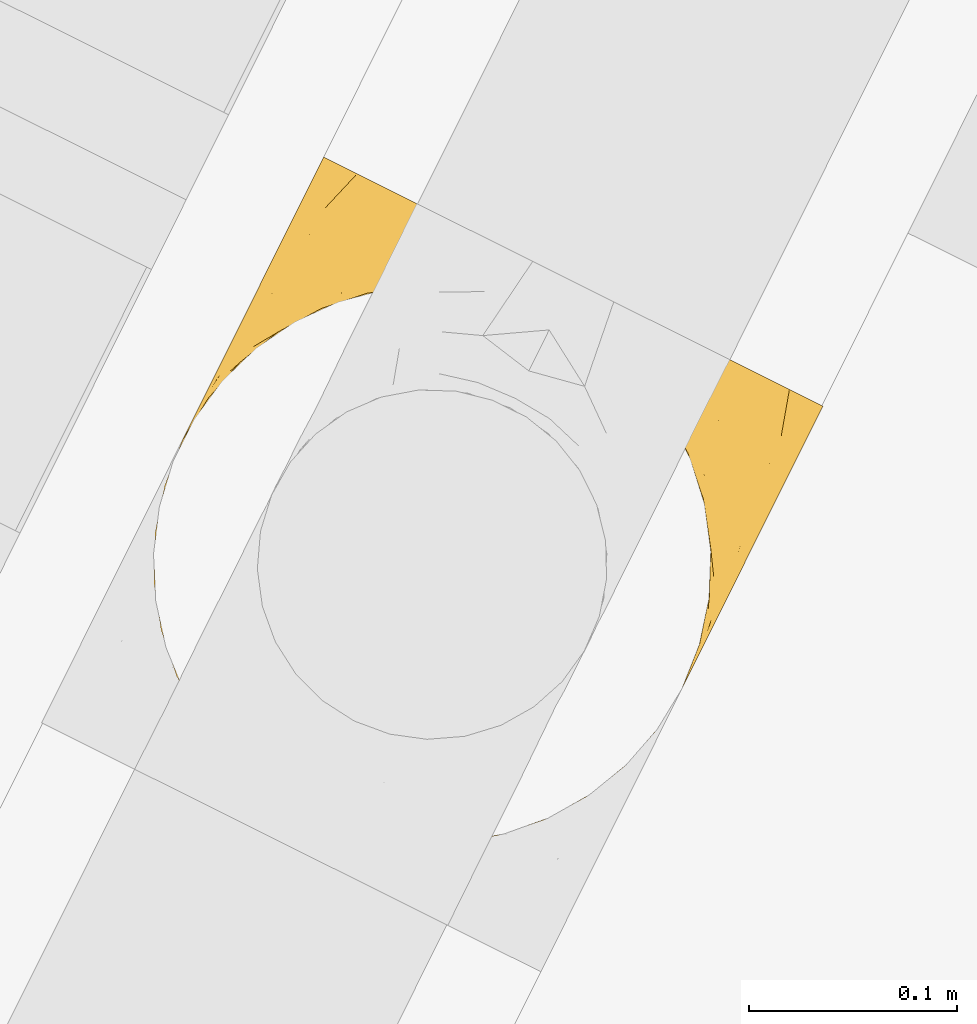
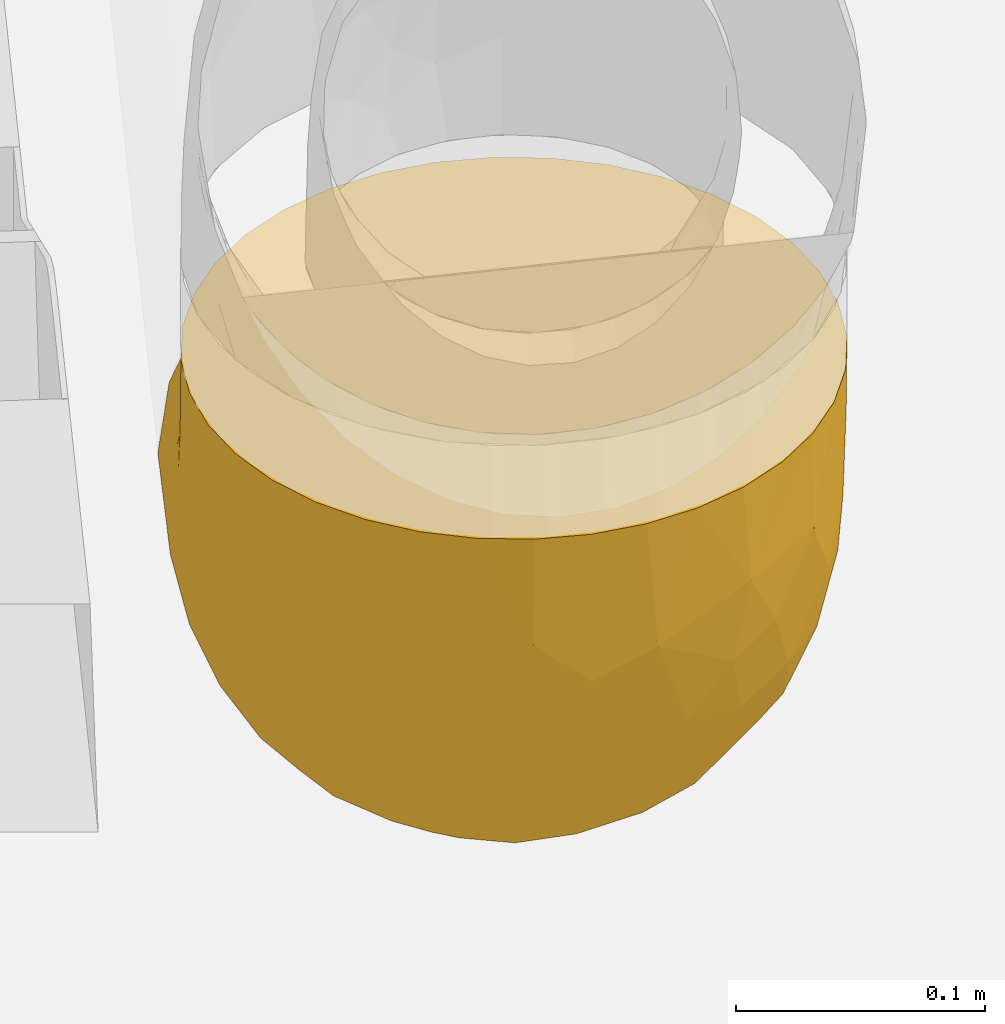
# One storey, part 49 of 91: 1 covering.
"""IFC2X3 building model written with IfcOpenShell, lengths in metres."""

from ifc_helpers import new_model, entity, si_unit, converted_unit, derived_unit, direction, frame, origin, place, context, subcontext, project, spatial, faceted_brep, element, save


model = new_model("IFC2X3")

# Units and contexts
model_context = context("Model", 3, precision=1e-05, world=origin(), true_north=direction((0.894925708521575, 0.446215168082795)))
context_of_model = context(None, 3, precision=1e-05, world=origin(), true_north=direction((0.894925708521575, 0.446215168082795)))
body_context = subcontext(model_context, "Body", "Model", "MODEL_VIEW")
ifc_project = project(units=[si_unit("LENGTHUNIT", "METRE"), si_unit("AREAUNIT", "SQUARE_METRE"), si_unit("VOLUMEUNIT", "CUBIC_METRE"), converted_unit("PLANEANGLEUNIT", "DEGREE", entity("IfcRatioMeasure", 0.0174532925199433), si_unit("PLANEANGLEUNIT", "RADIAN"), dimensions=[0, 0, 0, 0, 0, 0, 0]), si_unit("MASSUNIT", "GRAM", prefix="KILO"), si_unit("TIMEUNIT", "SECOND"), si_unit("FREQUENCYUNIT", "HERTZ"), si_unit("THERMODYNAMICTEMPERATUREUNIT", "DEGREE_CELSIUS"), derived_unit("THERMALTRANSMITTANCEUNIT", [(si_unit("MASSUNIT", "GRAM", prefix="KILO"), 1), (si_unit("THERMODYNAMICTEMPERATUREUNIT", "KELVIN"), -1), (si_unit("TIMEUNIT", "SECOND"), -3)]), derived_unit("VOLUMETRICFLOWRATEUNIT", [(si_unit("LENGTHUNIT", "METRE"), 3), (si_unit("TIMEUNIT", "SECOND"), -1)]), si_unit("ELECTRICCURRENTUNIT", "AMPERE"), si_unit("ELECTRICVOLTAGEUNIT", "VOLT"), si_unit("POWERUNIT", "WATT"), si_unit("FORCEUNIT", "NEWTON", prefix="KILO"), si_unit("ILLUMINANCEUNIT", "LUX"), si_unit("LUMINOUSFLUXUNIT", "LUMEN"), si_unit("LUMINOUSINTENSITYUNIT", "CANDELA"), si_unit("PRESSUREUNIT", "PASCAL")], contexts=[model_context, context_of_model])

# Site, building, storey
site_placement = place(None, frame((218.228324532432, 584.720189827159, 0.0), z_axis=(0.0, 0.0, 1.0), x_axis=(0.446215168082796, 0.894925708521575, 0.0)))
site = spatial("IfcSite", under=ifc_project, at=site_placement, Name="Default", CompositionType="ELEMENT")
building_placement = place(site_placement, origin())
building = spatial("IfcBuilding", under=site, at=building_placement, CompositionType="ELEMENT")
storey_placement = place(building_placement, origin())
storey = spatial("IfcBuildingStorey", under=building, at=storey_placement, Name="0 - Piano Terra", CompositionType="ELEMENT", Elevation=0.0)

# Covering
covering_placement = place(storey_placement, frame((-13.5648192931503, -4.52096176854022, 3.41425472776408)))
element("IfcCovering", 1, at=covering_placement, inside=storey, Name="Isolamento tubazione:Default", ObjectType="Isolamento tubazione:Default", PredefinedType="INSULATION", context=body_context, shape_type="Brep", body=[
    faceted_brep([(0.0898657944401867, 0.261805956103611, 0.287745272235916), (0.0686705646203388, 0.251922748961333, 0.287745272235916), (0.0495131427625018, 0.238508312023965, 0.287745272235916), (0.0329768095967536, 0.221970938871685, 0.287745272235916), (0.0195645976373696, 0.202814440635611, 0.287745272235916), (0.00968379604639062, 0.181622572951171, 0.287745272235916), (0.00363311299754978, 0.159039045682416, 0.287745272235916), (0.0015952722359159, 0.135745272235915, 0.287745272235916), (0.00363279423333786, 0.112453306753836, 0.287745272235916), (0.00968458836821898, 0.0898657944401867, 0.287745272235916), (0.0195677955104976, 0.0686705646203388, 0.287745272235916), (0.0329822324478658, 0.0495131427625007, 0.287745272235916), (0.0495196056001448, 0.0329768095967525, 0.287745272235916), (0.0686761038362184, 0.0195645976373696, 0.287745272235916), (0.0898679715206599, 0.00968379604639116, 0.287745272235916), (0.112451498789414, 0.00363311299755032, 0.287745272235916), (0.135745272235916, 0.00159527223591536, 0.287745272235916), (0.150442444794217, 0.00288094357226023, 0.287745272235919), (0.159037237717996, 0.00363279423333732, 0.287745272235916), (0.181624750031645, 0.00968458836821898, 0.287745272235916), (0.202819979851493, 0.0195677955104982, 0.287745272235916), (0.221977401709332, 0.0329822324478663, 0.287745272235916), (0.23851373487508, 0.0495196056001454, 0.287745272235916), (0.251925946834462, 0.0686761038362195, 0.287745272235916), (0.261806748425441, 0.0898679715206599, 0.287745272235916), (0.267857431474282, 0.112451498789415, 0.287745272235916), (0.269895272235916, 0.135745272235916, 0.287745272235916), (0.267857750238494, 0.159037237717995, 0.287745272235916), (0.261805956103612, 0.181624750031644, 0.287745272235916), (0.251922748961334, 0.202819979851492, 0.287745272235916), (0.238508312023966, 0.22197740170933, 0.287745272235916), (0.221970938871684, 0.238513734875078, 0.287745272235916), (0.202814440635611, 0.251925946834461, 0.287745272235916), (0.181622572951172, 0.26180674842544, 0.287745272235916), (0.159039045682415, 0.26785743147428, 0.287745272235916), (0.150442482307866, 0.26860949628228, 0.287745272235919), (0.135745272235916, 0.269895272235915, 0.287745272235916), (0.112453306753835, 0.267857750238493, 0.287745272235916), (0.287745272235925, 0.135745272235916, 0.269895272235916), (0.287745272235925, 0.101024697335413, 0.265324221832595), (0.287745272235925, 0.0686702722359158, 0.251922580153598), (0.287745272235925, 0.0408868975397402, 0.230603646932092), (0.287745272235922, 0.0302274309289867, 0.216711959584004), (0.287745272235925, 0.0195679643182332, 0.202820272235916), (0.287745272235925, 0.0128671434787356, 0.186643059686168), (0.287745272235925, 0.00616632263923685, 0.17046584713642), (0.287745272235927, 0.00355977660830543, 0.150667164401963), (0.287745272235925, 0.00159527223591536, 0.135745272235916), (0.287745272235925, 0.00616632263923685, 0.101024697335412), (0.287745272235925, 0.0195679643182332, 0.0686702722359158), (0.287745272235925, 0.0408868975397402, 0.0408868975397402), (0.287745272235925, 0.0686702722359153, 0.0195679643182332), (0.287745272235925, 0.101024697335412, 0.00616632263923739), (0.287745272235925, 0.135745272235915, 0.0015952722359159), (0.287745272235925, 0.170465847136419, 0.00616632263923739), (0.287745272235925, 0.202820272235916, 0.0195679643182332), (0.287745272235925, 0.230603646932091, 0.0408868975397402), (0.287745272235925, 0.251922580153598, 0.0686702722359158), (0.287745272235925, 0.265324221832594, 0.101024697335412), (0.287745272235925, 0.269895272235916, 0.135745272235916), (0.287745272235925, 0.267930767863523, 0.150667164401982), (0.287745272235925, 0.265324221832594, 0.170465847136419), (0.287745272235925, 0.258623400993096, 0.186643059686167), (0.287745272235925, 0.251922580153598, 0.202820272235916), (0.287745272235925, 0.241263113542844, 0.216711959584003), (0.287745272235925, 0.230603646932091, 0.230603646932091), (0.287745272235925, 0.202820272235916, 0.251922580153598), (0.287745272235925, 0.170465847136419, 0.265324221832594), (0.210001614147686, 0.173592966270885, 0.018025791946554), (0.231920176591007, 0.135745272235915, 0.0070935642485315), (0.178240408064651, 0.135745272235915, 0.0233771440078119), (0.00709356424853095, 0.135745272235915, 0.231920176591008), (0.0154037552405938, 0.159717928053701, 0.207241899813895), (0.0233771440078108, 0.135745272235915, 0.178240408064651), (0.0376709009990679, 0.170985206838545, 0.158630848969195), (0.0481840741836, 0.200241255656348, 0.164011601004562), (0.0702767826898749, 0.173639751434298, 0.110284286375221), (0.151109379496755, 0.167491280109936, 0.0406698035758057), (0.165181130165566, 0.199265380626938, 0.0469889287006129), (0.232322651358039, 0.255399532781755, 0.0824390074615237), (0.100876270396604, 0.212938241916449, 0.104510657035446), (0.07451859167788, 0.223457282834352, 0.150639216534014), (0.0977471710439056, 0.243942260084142, 0.1558220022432), (0.207358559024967, 0.234087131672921, 0.0581703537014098), (0.128768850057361, 0.135745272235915, 0.0498202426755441), (0.111071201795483, 0.260833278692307, 0.19301425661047), (0.136565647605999, 0.257743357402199, 0.145189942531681), (0.0854066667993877, 0.135745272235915, 0.0854066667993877), (0.0498202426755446, 0.135745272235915, 0.128768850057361), (0.196714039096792, 0.262693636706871, 0.114887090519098), (0.246573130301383, 0.267352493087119, 0.114577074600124), (0.229030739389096, 0.211715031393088, 0.0318283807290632), (0.0640871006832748, 0.236857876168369, 0.200254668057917), (0.183107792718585, 0.251339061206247, 0.0941366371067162), (0.248404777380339, 0.269895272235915, 0.140924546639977), (0.261013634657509, 0.269895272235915, 0.139264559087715), (0.273622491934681, 0.269895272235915, 0.137604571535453), (0.21174527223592, 0.269895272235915, 0.156109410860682), (0.23007502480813, 0.269895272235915, 0.14851697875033), (0.0770419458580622, 0.252999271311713, 0.235124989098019), (0.113769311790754, 0.186228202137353, 0.073111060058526), (0.107834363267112, 0.159251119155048, 0.0679034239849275), (0.147309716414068, 0.266914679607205, 0.17495543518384), (0.0413634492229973, 0.225420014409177, 0.235921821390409), (0.180265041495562, 0.269895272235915, 0.180265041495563), (0.196005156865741, 0.269895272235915, 0.168187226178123), (0.0201292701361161, 0.186827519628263, 0.220056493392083), (0.133296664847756, 0.208621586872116, 0.0728637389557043), (0.165471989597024, 0.235964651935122, 0.0798632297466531), (0.139152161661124, 0.244360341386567, 0.111228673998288), (0.126495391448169, 0.267685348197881, 0.216594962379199), (0.137604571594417, 0.269895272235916, 0.273622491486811), (0.139264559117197, 0.269895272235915, 0.261013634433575), (0.140924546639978, 0.269895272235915, 0.248404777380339), (0.156109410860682, 0.269895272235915, 0.21174527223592), (0.168187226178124, 0.269895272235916, 0.196005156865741), (0.174226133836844, 0.269895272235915, 0.188135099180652), (0.0494438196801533, 0.21892116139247, 0.190837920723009), (0.172088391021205, 0.219832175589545, 0.0587716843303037), (0.148516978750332, 0.269895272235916, 0.230075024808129), (0.203107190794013, 0.257440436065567, 0.243401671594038), (0.180411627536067, 0.266339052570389, 0.231201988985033), (0.187823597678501, 0.261505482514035, 0.254512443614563), (0.261122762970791, 0.265515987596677, 0.172784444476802), (0.240538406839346, 0.267416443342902, 0.170566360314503), (0.265974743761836, 0.258379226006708, 0.192583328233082), (0.232284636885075, 0.234200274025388, 0.262635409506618), (0.251401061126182, 0.209632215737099, 0.270963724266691), (0.271793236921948, 0.247613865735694, 0.211432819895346), (0.270689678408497, 0.238549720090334, 0.224176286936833), (0.218093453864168, 0.262888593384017, 0.203626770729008), (0.270487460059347, 0.16297331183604, 0.27641960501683), (0.273294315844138, 0.22427845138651, 0.238613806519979), (0.259195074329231, 0.228157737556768, 0.241020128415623), (0.272063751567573, 0.20377312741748, 0.254920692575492), (0.19952979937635, 0.265964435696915, 0.206743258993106), (0.276519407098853, 0.172729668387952, 0.267614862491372), (0.265322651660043, 0.190556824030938, 0.268485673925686), (0.248077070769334, 0.229549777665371, 0.248077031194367), (0.237479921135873, 0.248264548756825, 0.226858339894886), (0.275123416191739, 0.135745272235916, 0.275123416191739), (0.241491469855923, 0.22892561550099, 0.257085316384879), (0.218961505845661, 0.254010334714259, 0.231774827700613), (0.223015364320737, 0.267242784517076, 0.180278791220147), (0.251119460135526, 0.259428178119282, 0.194639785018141), (0.171601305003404, 0.265732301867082, 0.262576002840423), (0.173207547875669, 0.266097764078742, 0.250936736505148), (0.169015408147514, 0.268138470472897, 0.233920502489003), (0.216819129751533, 0.244552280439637, 0.268344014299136), (0.255637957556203, 0.211919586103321, 0.261333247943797), (0.18692490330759, 0.266477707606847, 0.219203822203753), (0.241344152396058, 0.257840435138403, 0.203223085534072), (0.269882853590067, 0.267289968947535, 0.163330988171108), (0.256110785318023, 0.242459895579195, 0.224507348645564), (0.270689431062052, 0.0329408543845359, 0.224176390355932), (0.27329356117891, 0.0472120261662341, 0.238613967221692), (0.256109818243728, 0.0290300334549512, 0.22450692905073), (0.232290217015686, 0.0372947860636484, 0.262634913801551), (0.276841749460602, 0.106124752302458, 0.269609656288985), (0.216823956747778, 0.0269410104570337, 0.268340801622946), (0.169023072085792, 0.00335319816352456, 0.233920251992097), (0.156109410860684, 0.00159527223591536, 0.211745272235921), (0.180414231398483, 0.00515136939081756, 0.231195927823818), (0.272062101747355, 0.0677158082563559, 0.254920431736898), (0.218973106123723, 0.0174874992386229, 0.231782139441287), (0.203112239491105, 0.0140509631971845, 0.24339600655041), (0.269417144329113, 0.105531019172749, 0.276899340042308), (0.265322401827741, 0.0809360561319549, 0.268487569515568), (0.261013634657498, 0.00159527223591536, 0.139264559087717), (0.273622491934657, 0.00159527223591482, 0.137604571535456), (0.218093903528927, 0.00860216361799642, 0.203627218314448), (0.237476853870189, 0.0232262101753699, 0.226861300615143), (0.240538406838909, 0.00407410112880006, 0.170566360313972), (0.21174527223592, 0.00159527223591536, 0.156109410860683), (0.23007502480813, 0.00159527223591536, 0.148516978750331), (0.140924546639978, 0.00159527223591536, 0.248404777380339), (0.148516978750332, 0.00159527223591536, 0.230075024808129), (0.171606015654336, 0.00575946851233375, 0.26257695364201), (0.265974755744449, 0.0131113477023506, 0.192583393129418), (0.27179322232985, 0.0238766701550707, 0.211432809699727), (0.261122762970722, 0.00597455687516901, 0.172784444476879), (0.241499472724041, 0.0425746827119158, 0.257090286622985), (0.251404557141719, 0.061865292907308, 0.270967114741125), (0.255639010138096, 0.0595746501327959, 0.261335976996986), (0.137604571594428, 0.0015952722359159, 0.273622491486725), (0.139264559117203, 0.00159527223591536, 0.261013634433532), (0.187829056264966, 0.00998674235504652, 0.254510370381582), (0.24808162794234, 0.0419468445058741, 0.248080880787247), (0.186929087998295, 0.00501312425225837, 0.219199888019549), (0.199534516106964, 0.00552776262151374, 0.206747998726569), (0.180265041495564, 0.00159527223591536, 0.180265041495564), (0.173212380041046, 0.00539385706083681, 0.250936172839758), (0.223015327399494, 0.00424774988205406, 0.180278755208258), (0.168187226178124, 0.00159527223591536, 0.196005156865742), (0.241343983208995, 0.0136499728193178, 0.203222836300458), (0.251119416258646, 0.0120623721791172, 0.19463981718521), (0.174226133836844, 0.00159527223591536, 0.188135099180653), (0.196005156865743, 0.00159527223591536, 0.168187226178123), (0.259193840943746, 0.0433316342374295, 0.241019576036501), (0.269882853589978, 0.00420057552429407, 0.163330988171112), (0.248404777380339, 0.00159527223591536, 0.140924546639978), (0.229030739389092, 0.0597755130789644, 0.0318283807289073), (0.0770456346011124, 0.018489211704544, 0.235125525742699), (0.111071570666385, 0.0106570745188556, 0.193014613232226), (0.0977507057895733, 0.0275474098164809, 0.155819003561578), (0.0640932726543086, 0.0346285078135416, 0.200251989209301), (0.1967140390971, 0.00879690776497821, 0.114887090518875), (0.246573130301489, 0.00413805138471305, 0.114577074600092), (0.147309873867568, 0.00457581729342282, 0.174955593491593), (0.100886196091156, 0.0585543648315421, 0.104498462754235), (0.0481907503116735, 0.0712444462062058, 0.164004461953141), (0.0702767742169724, 0.0978508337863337, 0.110284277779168), (0.0494481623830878, 0.052565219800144, 0.190835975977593), (0.0201318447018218, 0.0846596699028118, 0.220051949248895), (0.232322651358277, 0.0160910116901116, 0.0824390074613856), (0.165471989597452, 0.035525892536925, 0.0798632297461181), (0.172088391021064, 0.0516583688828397, 0.0587716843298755), (0.207358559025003, 0.0374034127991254, 0.0581703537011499), (0.210001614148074, 0.0978975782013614, 0.0180257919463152), (0.183107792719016, 0.0201514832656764, 0.0941366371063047), (0.151109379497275, 0.103999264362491, 0.0406698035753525), (0.165181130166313, 0.0722251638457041, 0.0469889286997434), (0.0745190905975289, 0.0480360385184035, 0.150634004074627), (0.126495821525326, 0.00380513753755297, 0.21659477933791), (0.113769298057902, 0.0852623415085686, 0.0731110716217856), (0.13915216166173, 0.0271302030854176, 0.111228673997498), (0.136565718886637, 0.0137471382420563, 0.145190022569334), (0.041368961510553, 0.0460646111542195, 0.235921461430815), (0.107834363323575, 0.112239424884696, 0.0679034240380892), (0.0154039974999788, 0.11177089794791, 0.207242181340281), (0.0379166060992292, 0.10794286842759, 0.154294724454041), (0.133303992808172, 0.0628686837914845, 0.072858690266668)], [[[0, 1, 2, 3, 4, 5, 6, 7, 8, 9, 10, 11, 12, 13, 14, 15, 16, 17, 18, 19, 20, 21, 22, 23, 24, 25, 26, 27, 28, 29, 30, 31, 32, 33, 34, 35, 36, 37]], [[38, 39, 40, 41, 42, 43, 44, 45, 46, 47, 48, 49, 50, 51, 52, 53, 54, 55, 56, 57, 58, 59, 60, 61, 62, 63, 64, 65, 66, 67]], [[68, 69, 70]], [[69, 54, 53]], [[71, 72, 73]], [[74, 75, 76]], [[68, 77, 78]], [[79, 58, 57]], [[68, 55, 54]], [[80, 81, 82]], [[83, 57, 56]], [[84, 77, 70]], [[85, 86, 82]], [[76, 87, 88]], [[89, 90, 79]], [[91, 83, 56]], [[92, 82, 81]], [[89, 93, 86]], [[90, 94, 95, 96, 59]], [[90, 97, 98, 94]], [[99, 1, 0]], [[59, 58, 90]], [[100, 101, 76]], [[102, 86, 85]], [[89, 102, 97]], [[100, 78, 77]], [[103, 99, 92]], [[102, 104, 105, 97]], [[55, 91, 56]], [[74, 73, 72]], [[72, 6, 5]], [[4, 106, 5]], [[80, 107, 100]], [[106, 72, 5]], [[82, 99, 85]], [[3, 103, 4]], [[108, 109, 93]], [[71, 7, 6]], [[76, 75, 80]], [[103, 3, 2]], [[54, 69, 68]], [[110, 36, 111, 112, 113]], [[2, 1, 103]], [[110, 114, 102]], [[102, 114, 115, 116, 104]], [[36, 110, 37]], [[4, 103, 106]], [[99, 37, 85]], [[79, 93, 89]], [[102, 85, 110]], [[117, 103, 92]], [[117, 106, 103]], [[1, 99, 103]], [[107, 108, 118]], [[37, 99, 0]], [[73, 74, 88]], [[89, 86, 102]], [[68, 78, 91]], [[82, 86, 109]], [[80, 82, 109]], [[82, 92, 99]], [[68, 91, 55]], [[118, 91, 78]], [[6, 72, 71]], [[74, 106, 75]], [[80, 75, 81]], [[117, 81, 75]], [[57, 83, 79]], [[83, 108, 93]], [[37, 110, 85]], [[110, 113, 119, 114]], [[81, 117, 92]], [[106, 117, 75]], [[70, 77, 68]], [[84, 87, 101]], [[77, 84, 101]], [[80, 100, 76]], [[76, 101, 87]], [[77, 101, 100]], [[83, 93, 79]], [[86, 93, 109]], [[118, 108, 83]], [[80, 109, 108]], [[91, 118, 83]], [[107, 118, 78]], [[100, 107, 78]], [[108, 107, 80]], [[79, 90, 58]], [[90, 89, 97]], [[88, 74, 76]], [[106, 74, 72]], [[120, 121, 122]], [[60, 59, 96, 95, 61]], [[123, 124, 125]], [[126, 29, 127]], [[127, 29, 28]], [[123, 98, 124]], [[128, 129, 65]], [[104, 130, 105]], [[131, 27, 26]], [[62, 123, 63]], [[132, 133, 134]], [[104, 116, 135]], [[38, 67, 136]], [[137, 136, 134]], [[138, 133, 139]], [[140, 38, 136]], [[131, 136, 137]], [[126, 141, 142]], [[127, 28, 137]], [[124, 143, 144]], [[145, 33, 32]], [[65, 129, 132]], [[146, 122, 147]], [[148, 122, 31]], [[149, 127, 137]], [[33, 113, 112]], [[35, 34, 112, 111, 36]], [[134, 67, 66]], [[120, 126, 142]], [[33, 145, 113]], [[140, 131, 26]], [[141, 126, 127]], [[126, 120, 148]], [[30, 148, 31]], [[33, 112, 34]], [[28, 27, 131]], [[126, 30, 29]], [[121, 147, 122]], [[31, 122, 32]], [[128, 125, 144]], [[115, 121, 150]], [[121, 115, 114]], [[97, 105, 143]], [[130, 104, 135]], [[139, 142, 138]], [[143, 151, 144]], [[123, 94, 98]], [[62, 61, 152]], [[123, 62, 152]], [[98, 97, 124]], [[143, 124, 97]], [[125, 124, 144]], [[126, 148, 30]], [[122, 148, 120]], [[66, 65, 132]], [[149, 134, 138]], [[125, 128, 64]], [[123, 125, 63]], [[64, 128, 65]], [[64, 63, 125]], [[144, 151, 129]], [[144, 129, 128]], [[129, 153, 132]], [[133, 132, 153]], [[134, 66, 132]], [[153, 151, 139]], [[138, 134, 133]], [[153, 139, 133]], [[142, 139, 130]], [[146, 32, 122]], [[113, 145, 119]], [[94, 152, 95]], [[28, 131, 137]], [[136, 131, 140]], [[134, 136, 67]], [[134, 149, 137]], [[141, 149, 138]], [[149, 141, 127]], [[142, 141, 138]], [[121, 120, 150]], [[147, 121, 114]], [[120, 142, 150]], [[150, 116, 115]], [[135, 150, 142]], [[150, 135, 116]], [[130, 135, 142]], [[114, 119, 147]], [[146, 119, 145]], [[119, 146, 147]], [[32, 146, 145]], [[105, 130, 143]], [[130, 139, 151]], [[130, 151, 143]], [[129, 151, 153]], [[95, 152, 61]], [[123, 152, 94]], [[154, 155, 156]], [[22, 157, 23]], [[38, 140, 158]], [[22, 159, 157]], [[160, 161, 162]], [[39, 158, 163]], [[164, 157, 165]], [[166, 24, 167]], [[168, 169, 47, 46, 45]], [[164, 170, 171]], [[172, 173, 174]], [[175, 176, 177]], [[178, 42, 179]], [[41, 155, 154]], [[39, 163, 40]], [[43, 180, 44]], [[181, 182, 157]], [[182, 183, 167]], [[166, 167, 158]], [[19, 177, 20]], [[17, 16, 184, 185, 18]], [[182, 167, 24]], [[23, 182, 24]], [[186, 21, 20]], [[181, 164, 187]], [[188, 165, 162]], [[22, 21, 159]], [[170, 189, 190]], [[159, 186, 165]], [[191, 20, 177]], [[173, 172, 192]], [[167, 163, 158]], [[23, 157, 182]], [[185, 175, 19]], [[18, 185, 19]], [[162, 165, 186]], [[193, 188, 162]], [[166, 26, 25]], [[194, 170, 192]], [[154, 195, 179]], [[190, 189, 196]], [[172, 174, 180]], [[170, 190, 197]], [[192, 197, 173]], [[156, 198, 171]], [[199, 45, 44]], [[172, 178, 195]], [[180, 200, 199]], [[200, 180, 174]], [[178, 180, 43]], [[192, 172, 195]], [[186, 159, 21]], [[157, 159, 165]], [[183, 163, 167]], [[155, 198, 156]], [[180, 178, 172]], [[42, 41, 179]], [[178, 43, 42]], [[154, 179, 41]], [[178, 179, 195]], [[155, 41, 40]], [[154, 156, 194]], [[40, 163, 155]], [[198, 155, 163]], [[163, 187, 198]], [[171, 198, 187]], [[164, 171, 187]], [[171, 170, 194]], [[175, 177, 19]], [[176, 160, 191]], [[199, 168, 45]], [[38, 158, 39]], [[140, 26, 166]], [[140, 166, 158]], [[24, 166, 25]], [[164, 181, 157]], [[183, 181, 187]], [[181, 183, 182]], [[163, 183, 187]], [[160, 162, 186]], [[193, 162, 161]], [[188, 193, 196]], [[164, 165, 188]], [[189, 170, 164]], [[196, 189, 188]], [[188, 189, 164]], [[191, 160, 186]], [[176, 161, 160]], [[20, 191, 186]], [[176, 191, 177]], [[194, 192, 195]], [[170, 197, 192]], [[154, 194, 195]], [[194, 156, 171]], [[180, 199, 44]], [[168, 199, 200]], [[201, 51, 50]], [[15, 202, 203]], [[204, 202, 205]], [[173, 206, 207]], [[207, 200, 174, 173]], [[47, 207, 48]], [[208, 190, 196, 193, 161]], [[209, 210, 211]], [[13, 202, 14]], [[208, 173, 197, 190]], [[212, 213, 210]], [[48, 207, 214]], [[69, 53, 52]], [[203, 202, 204]], [[215, 216, 217]], [[201, 218, 51]], [[202, 15, 14]], [[70, 69, 218]], [[217, 214, 219]], [[220, 218, 221]], [[201, 50, 217]], [[49, 217, 50]], [[220, 70, 218]], [[222, 209, 204]], [[223, 161, 176, 175]], [[224, 209, 211]], [[204, 225, 226]], [[206, 208, 226]], [[16, 15, 223]], [[15, 203, 223]], [[13, 12, 227]], [[214, 49, 48]], [[202, 227, 205]], [[69, 52, 218]], [[51, 218, 52]], [[202, 13, 227]], [[217, 219, 215]], [[228, 87, 84]], [[73, 229, 71]], [[88, 211, 230]], [[211, 88, 87]], [[11, 227, 12]], [[9, 213, 10]], [[10, 213, 227]], [[229, 8, 71]], [[173, 208, 206]], [[7, 71, 8]], [[213, 229, 230]], [[226, 208, 203]], [[212, 205, 227]], [[228, 220, 224]], [[213, 230, 210]], [[225, 204, 209]], [[208, 223, 203]], [[10, 227, 11]], [[9, 8, 229]], [[226, 225, 219]], [[203, 204, 226]], [[204, 205, 222]], [[216, 201, 217]], [[218, 201, 221]], [[88, 230, 73]], [[229, 213, 9]], [[212, 222, 205]], [[210, 209, 222]], [[219, 214, 206]], [[217, 49, 214]], [[161, 223, 208]], [[223, 175, 185, 184, 16]], [[213, 212, 227]], [[222, 212, 210]], [[224, 220, 221]], [[70, 220, 84]], [[224, 221, 231]], [[228, 211, 87]], [[220, 228, 84]], [[211, 228, 224]], [[226, 219, 206]], [[219, 225, 215]], [[225, 209, 215]], [[216, 231, 221]], [[231, 215, 209]], [[201, 216, 221]], [[215, 231, 216]], [[224, 231, 209]], [[207, 47, 169, 168, 200]], [[214, 207, 206]], [[210, 230, 211]], [[73, 230, 229]]]),
])

save(model, "model.ifc")
